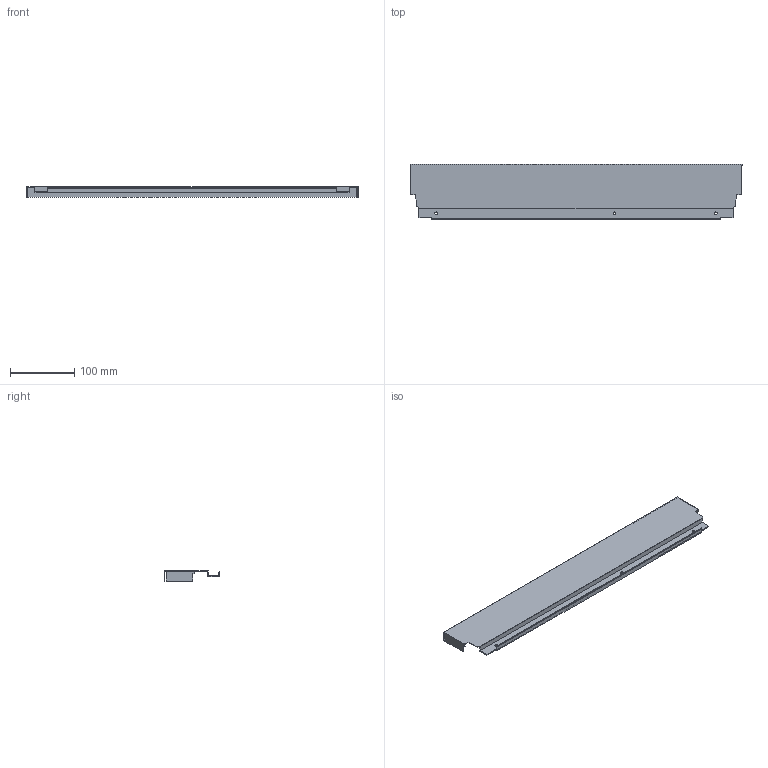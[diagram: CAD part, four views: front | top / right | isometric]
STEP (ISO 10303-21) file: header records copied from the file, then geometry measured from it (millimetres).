
FILE_DESCRIPTION (( 'STEP AP214' ), '1' );
FILE_NAME ('_DWD_XP Stahlrückwand_H86_KAB600_S17.step', '2010-07-08T12:10:09', ( 'grass' ), ( '' ), 'SwSTEP 2.0', 'SolidWorks 2010', '' );
FILE_SCHEMA (( 'AUTOMOTIVE_DESIGN' ));
Length unit declared in the file: millimetre
Products named in the file (1): _DWD_XP Stahlrückwand_H86_KAB600_S17
Bounding box: 517 x 85.79 x 16 mm (x, y, z)
Volume: 55024.6 mm3; surface area: 119970.2 mm2
Topology: 1 solids, 1 shells, 50 faces, 144 edges, 96 vertices
Faces by surface type: plane 44, cylinder 6
Entity records: 1666 total; most frequent: CARTESIAN_POINT 291, ORIENTED_EDGE 288, DIRECTION 258, EDGE_CURVE 144, LINE 132, VECTOR 132, VERTEX_POINT 96, AXIS2_PLACEMENT_3D 63
